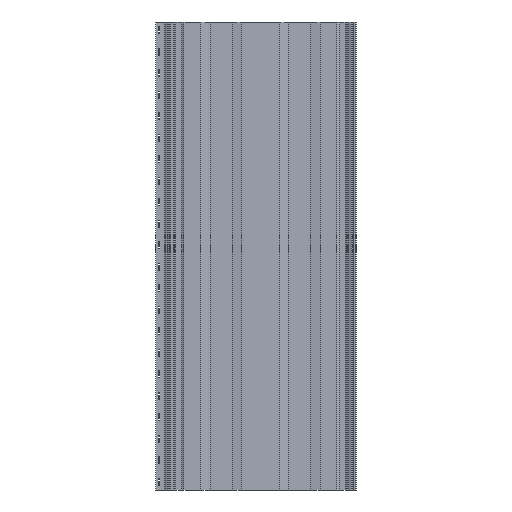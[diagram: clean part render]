
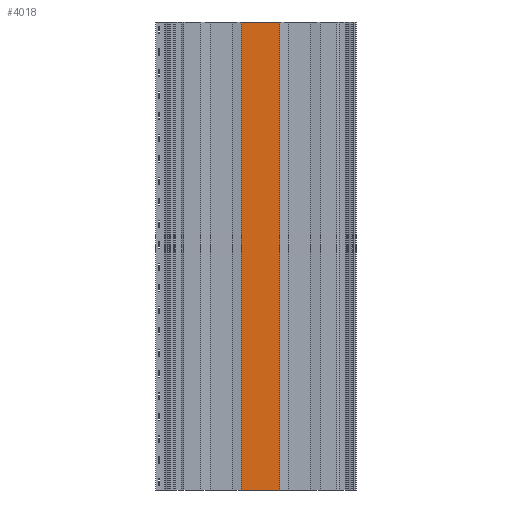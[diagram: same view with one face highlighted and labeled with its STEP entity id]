
A CAD part, front view. The second image highlights one B-rep face of the part: STEP entity #4018.
In plain terms, the highlighted planar face has unit normal (0, -1, 0).
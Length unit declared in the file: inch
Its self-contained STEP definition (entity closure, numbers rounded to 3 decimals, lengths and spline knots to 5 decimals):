
#508=FACE_OUTER_BOUND('',#750,.T.);
#750=EDGE_LOOP('',(#3431,#3432,#3433,#3434));
#1130=LINE('',#6656,#1534);
#1131=LINE('',#6659,#1535);
#1132=LINE('',#6661,#1536);
#1133=LINE('',#6662,#1537);
#1534=VECTOR('',#5476,0.3937);
#1535=VECTOR('',#5479,0.3937);
#1536=VECTOR('',#5480,0.3937);
#1537=VECTOR('',#5481,0.3937);
#1929=VERTEX_POINT('',#6652);
#1930=VERTEX_POINT('',#6654);
#1931=VERTEX_POINT('',#6658);
#1932=VERTEX_POINT('',#6660);
#2494=EDGE_CURVE('',#1929,#1930,#1130,.T.);
#2495=EDGE_CURVE('',#1931,#1929,#1131,.T.);
#2496=EDGE_CURVE('',#1932,#1930,#1132,.T.);
#2497=EDGE_CURVE('',#1931,#1932,#1133,.T.);
#3431=ORIENTED_EDGE('',*,*,#2495,.T.);
#3432=ORIENTED_EDGE('',*,*,#2494,.T.);
#3433=ORIENTED_EDGE('',*,*,#2496,.F.);
#3434=ORIENTED_EDGE('',*,*,#2497,.F.);
#3830=PLANE('',#4400);
#4018=ADVANCED_FACE('',(#508),#3830,.T.);
#4400=AXIS2_PLACEMENT_3D('',#6657,#5477,#5478);
#5476=DIRECTION('',(0.,0.,1.));
#5477=DIRECTION('center_axis',(0.,-1.,0.));
#5478=DIRECTION('ref_axis',(1.,0.,0.));
#5479=DIRECTION('',(1.,0.,0.));
#5480=DIRECTION('',(1.,0.,0.));
#5481=DIRECTION('',(0.,0.,1.));
#6652=CARTESIAN_POINT('',(12.97326,0.00383,0.));
#6654=CARTESIAN_POINT('',(12.97326,0.00383,49.));
#6656=CARTESIAN_POINT('',(12.97326,0.00383,0.));
#6657=CARTESIAN_POINT('Origin',(8.97744,0.00383,0.));
#6658=CARTESIAN_POINT('',(8.97744,0.00383,0.));
#6659=CARTESIAN_POINT('',(8.97744,0.00383,0.));
#6660=CARTESIAN_POINT('',(8.97744,0.00383,49.));
#6661=CARTESIAN_POINT('',(8.97744,0.00383,49.));
#6662=CARTESIAN_POINT('',(8.97744,0.00383,0.));
